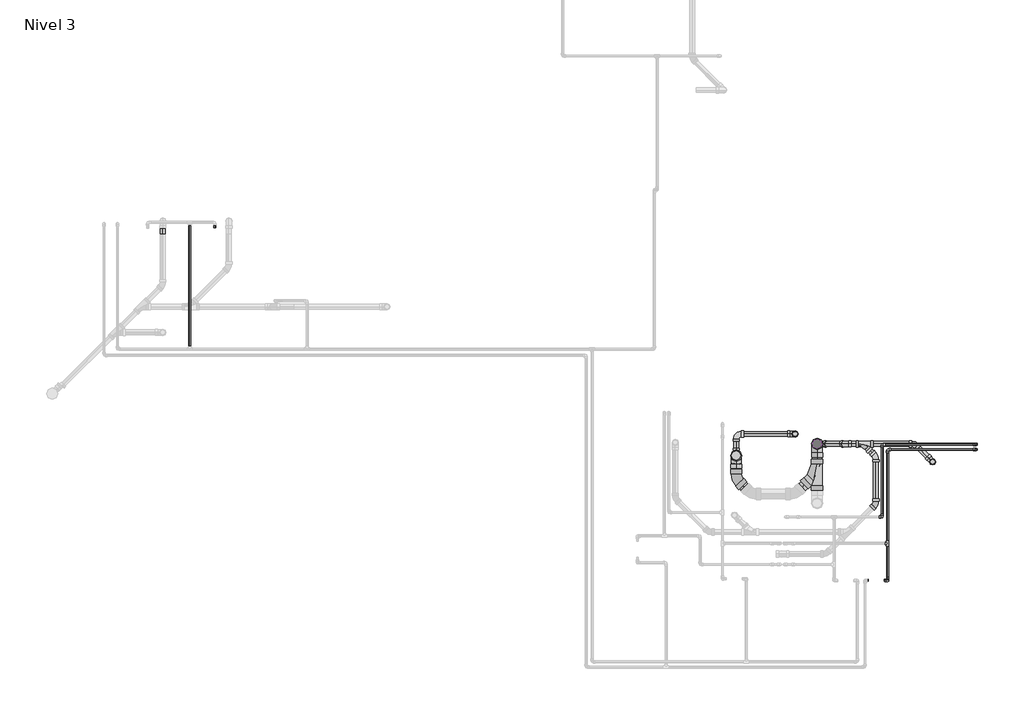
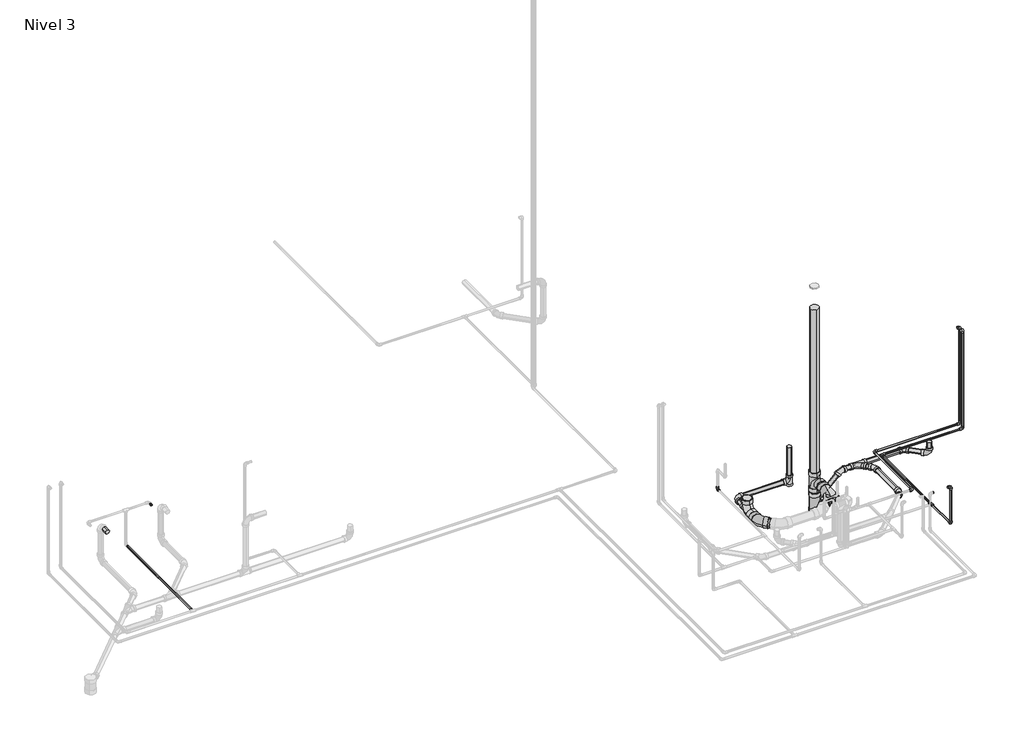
# One storey, part 4 of 9: 31 pipe segments, 24 pipe fittings.
"""IFC4 building model written with IfcOpenShell, lengths in millimetres."""

from ifc_helpers import new_model, si_unit, point, frame, frame_2d, origin, place, context, project, spatial, circle_curve, trimmed, segment, composite_curve, outline, extrude, transform, mapped, element, save
from components import pipe_fitting_ab418b84, pipe_fitting_0163322b, pipe_fitting_2a8dfbef, pipe_fitting_44a425ca, pipe_fitting_6ef1482d, pipe_fitting_ef5974f2, pipe_fitting_528008cb, m_codo_pvc_serie_40_9ad74631, m_codo_pvc_serie_40_dwv1_5c0ec739, m_codo_pvc_serie_40_dwv1_9a7ca077, m_codo_pvc_serie_40_dwv1_6f1a2495

model = new_model("IFC4")

# Units and contexts
model_context = context("Model", 3, world=origin())
ifc_project = project(units=[si_unit("LENGTHUNIT", "METRE", prefix="MILLI")], contexts=[model_context])

# Site, building, storey
site = spatial("IfcSite", under=ifc_project)
building = spatial("IfcBuilding", under=site)
storey = spatial("IfcBuildingStorey", under=building, Name="Nivel 3", Elevation=5450.0)

# Pipe fittings
placement = place(None, origin())
pipe_fitting_shape = pipe_fitting_ab418b84(model_context)
element("IfcPipeFitting", 1, ObjectType="M_Te - PVC - Serie 40 : Estándar", at=placement, inside=storey, context=model_context, shape_type="MappedRepresentation", body=[
    mapped(pipe_fitting_shape, transform((8223.2736664, 5443.3784167, 5370.0), x_axis=(0.0, -1.0, 0.0), y_axis=(1.0, 0.0, 0.0), z_axis=(0.0, 0.0, 1.0))),
])
pipe_fitting_2_shape = pipe_fitting_0163322b(model_context)
element("IfcPipeFitting", 2, ObjectType="M_Sanitario con te de reducción - PVC - Serie 40 - DWV : Estándar", at=placement, inside=storey, context=model_context, shape_type="MappedRepresentation", body=[
    mapped(pipe_fitting_2_shape, transform((7950.1491284, 6556.6039726, 5300.0), x_axis=(1.0, 0.0, 0.0), y_axis=(0.0, 1.0, 0.0), z_axis=(0.0, 0.0, 1.0))),
])
pipe_fitting_3_shape = pipe_fitting_2a8dfbef(model_context)
element("IfcPipeFitting", 3, ObjectType="M_Sanitario con te de reducción - PVC - Serie 40 - DWV : Estándar", at=placement, inside=storey, context=model_context, shape_type="MappedRepresentation", body=[
    mapped(pipe_fitting_3_shape, transform((7432.3114332, 6556.6039726, 5300.0), x_axis=(0.0, 0.0, 1.0), y_axis=(0.0, 1.0, 0.0), z_axis=(-1.0, 0.0, 0.0))),
])
pipe_fitting_4_shape = pipe_fitting_44a425ca(model_context)
element("IfcPipeFitting", 4, ObjectType="M_Sanitario con te de reducción - PVC - Serie 40 - DWV : Estándar", at=placement, inside=storey, context=model_context, shape_type="MappedRepresentation", body=[
    mapped(pipe_fitting_4_shape, transform((6526.9673956, 6425.7039726, 5300.0), x_axis=(0.0, 1.0, 0.0), y_axis=(0.0, 0.0, -1.0), z_axis=(-1.0, 0.0, 0.0))),
])
pipe_fitting_5_shape = pipe_fitting_6ef1482d(model_context)
element("IfcPipeFitting", 5, ObjectType="M_Sanitario con te de reducción - PVC - Serie 40 - DWV : Estándar", at=placement, inside=storey, context=model_context, shape_type="MappedRepresentation", body=[
    mapped(pipe_fitting_5_shape, transform((7186.9673956, 6667.6335141, 5300.0), x_axis=(0.0, 0.0, -1.0), y_axis=(1.0, 0.0, 0.0), z_axis=(0.0, -1.0, 0.0))),
])
pipe_fitting_6_shape = pipe_fitting_ef5974f2(model_context)
element("IfcPipeFitting", 6, ObjectType="M_Sanitario con te de reducción - PVC - Serie 40 - DWV : Estándar", at=placement, inside=storey, context=model_context, shape_type="MappedRepresentation", body=[
    mapped(pipe_fitting_6_shape, transform((7432.3114332, 6556.6039726, 4980.373341), x_axis=(0.0, 0.0, 1.0), y_axis=(-1.0, 0.0, 0.0), z_axis=(0.0, -1.0, 0.0))),
])
pipe_fitting_7_shape = pipe_fitting_528008cb(model_context)
element("IfcPipeFitting", 7, ObjectType="M_Sanitario con te de reducción - PVC - Serie 40 - DWV : Estándar", at=placement, inside=storey, context=model_context, shape_type="MappedRepresentation", body=[
    mapped(pipe_fitting_7_shape, transform((7432.3176766, 6240.3688287, 5300.0), x_axis=(0.0, -1.0, 0.0), y_axis=(1.0, 0.0, 0.0), z_axis=(0.0, 0.0, 1.0))),
])
m_codo_pvc_serie_40_shape = m_codo_pvc_serie_40_9ad74631(model_context)
element("IfcPipeFitting", 8, ObjectType="M_Codo - PVC - Serie 40 : Estándar", at=placement, inside=storey, context=model_context, shape_type="MappedRepresentation", body=[
    mapped(m_codo_pvc_serie_40_shape, transform((6373.4849581, 6783.6807861, 5400.0), x_axis=(0.0, 0.0, -1.0), y_axis=(0.0, -1.0, 0.0), z_axis=(-1.0, 0.0, 0.0))),
])
element("IfcPipeFitting", 9, ObjectType="M_Codo - PVC - Serie 40 : Estándar", at=placement, inside=storey, context=model_context, shape_type="MappedRepresentation", body=[
    mapped(m_codo_pvc_serie_40_shape, transform((8160.7224481, 6550.9011374, 5400.0), x_axis=(-1.0, 0.0, 0.0), y_axis=(0.0, -1.0, 0.0), z_axis=(0.0, 0.0, 1.0))),
])
element("IfcPipeFitting", 10, ObjectType="M_Codo - PVC - Serie 40 : Estándar", at=placement, inside=storey, context=model_context, shape_type="MappedRepresentation", body=[
    mapped(m_codo_pvc_serie_40_shape, transform((9213.5474126, 6550.9011374, 5400.0), x_axis=(1.0, 0.0, 0.0), y_axis=(0.0, 0.0, 1.0), z_axis=(0.0, -1.0, 0.0))),
])
element("IfcPipeFitting", 11, ObjectType="M_Codo - PVC - Serie 40 : Estándar", at=placement, inside=storey, context=model_context, shape_type="MappedRepresentation", body=[
    mapped(m_codo_pvc_serie_40_shape, transform((9213.5474126, 6550.9011374, 6650.0), x_axis=(0.0, 0.0, 1.0), y_axis=(-1.0, 0.0, 0.0), z_axis=(0.0, -1.0, 0.0))),
])
element("IfcPipeFitting", 12, ObjectType="M_Codo - PVC - Serie 40 : Estándar", at=placement, inside=storey, context=model_context, shape_type="MappedRepresentation", body=[
    mapped(m_codo_pvc_serie_40_shape, transform((8223.2736664, 5028.5261191, 5850.0), x_axis=(1.0, 0.0, 0.0), y_axis=(0.0, 0.0, -1.0), z_axis=(0.0, 1.0, 0.0))),
])
element("IfcPipeFitting", 13, ObjectType="M_Codo - PVC - Serie 40 : Estándar", at=placement, inside=storey, context=model_context, shape_type="MappedRepresentation", body=[
    mapped(m_codo_pvc_serie_40_shape, transform((8223.2736664, 5028.5261191, 5370.0), x_axis=(0.0, 0.0, -1.0), y_axis=(0.0, 1.0, 0.0), z_axis=(1.0, 0.0, 0.0))),
])
element("IfcPipeFitting", 14, ObjectType="M_Codo - PVC - Serie 40 : Estándar", at=placement, inside=storey, context=model_context, shape_type="MappedRepresentation", body=[
    mapped(m_codo_pvc_serie_40_shape, transform((8160.7224481, 5738.1215351, 5400.0), x_axis=(1.0, 0.0, 0.0), y_axis=(0.0, 1.0, 0.0), z_axis=(0.0, 0.0, 1.0))),
])
element("IfcPipeFitting", 15, ObjectType="M_Codo - PVC - Serie 40 : Estándar", at=placement, inside=storey, context=model_context, shape_type="MappedRepresentation", body=[
    mapped(m_codo_pvc_serie_40_shape, transform((8223.2736664, 6493.5261191, 5370.0), x_axis=(-1.0, 0.0, 0.0), y_axis=(0.0, -1.0, 0.0), z_axis=(0.0, 0.0, 1.0))),
])
element("IfcPipeFitting", 16, ObjectType="M_Codo - PVC - Serie 40 : Estándar", at=placement, inside=storey, context=model_context, shape_type="MappedRepresentation", body=[
    mapped(m_codo_pvc_serie_40_shape, transform((9213.2736664, 6493.5261191, 5370.0), x_axis=(1.0, 0.0, 0.0), y_axis=(0.0, 0.0, 1.0), z_axis=(0.0, -1.0, 0.0))),
])
element("IfcPipeFitting", 17, ObjectType="M_Codo - PVC - Serie 40 : Estándar", at=placement, inside=storey, context=model_context, shape_type="MappedRepresentation", body=[
    mapped(m_codo_pvc_serie_40_shape, transform((9213.2736664, 6493.5261191, 6650.0), x_axis=(0.0, 0.0, 1.0), y_axis=(-1.0, 0.0, 0.0), z_axis=(0.0, -1.0, 0.0))),
])
m_codo_pvc_serie_40_dwv1_shape = m_codo_pvc_serie_40_dwv1_5c0ec739(model_context)
element("IfcPipeFitting", 18, ObjectType="M_Codo - PVC - Serie 40 - DWV1 : Estándar 2", at=placement, inside=storey, context=model_context, shape_type="MappedRepresentation", body=[
    mapped(m_codo_pvc_serie_40_dwv1_shape, transform((8726.4610283, 6356.2295424, 5300.0041623), x_axis=(0.0, 0.0, -1.0), y_axis=(-0.7071067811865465, 0.7071067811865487, 0.0), z_axis=(0.7071067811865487, 0.7071067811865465, 0.0))),
])
element("IfcPipeFitting", 19, ObjectType="M_Codo - PVC - Serie 40 - DWV1 : Estándar 2", at=placement, inside=storey, context=model_context, shape_type="MappedRepresentation", body=[
    mapped(m_codo_pvc_serie_40_dwv1_shape, transform((6526.9673956, 6667.6335141, 5300.0), x_axis=(-1.0, 0.0, 0.0), y_axis=(0.0, -1.0, 0.0), z_axis=(0.0, 0.0, 1.0))),
])
m_codo_pvc_serie_40_dwv1_2_shape = m_codo_pvc_serie_40_dwv1_9a7ca077(model_context)
element("IfcPipeFitting", 20, ObjectType="M_Codo - PVC - Serie 40 - DWV1 : Estándar 2", at=placement, inside=storey, context=model_context, shape_type="MappedRepresentation", body=[
    mapped(m_codo_pvc_serie_40_dwv1_2_shape, transform((6526.9673956, 6165.7039726, 5300.0), x_axis=(0.0, -1.0, 0.0), y_axis=(1.0, 0.0, 0.0), z_axis=(0.0, 0.0, 1.0))),
])
m_codo_pvc_serie_40_dwv1_3_shape = m_codo_pvc_serie_40_dwv1_6f1a2495(model_context)
element("IfcPipeFitting", 21, ObjectType="M_Codo - PVC - Serie 40 - DWV1 : Estándar 2", at=placement, inside=storey, context=model_context, shape_type="MappedRepresentation", body=[
    mapped(m_codo_pvc_serie_40_dwv1_3_shape, transform((8090.9591157, 5880.4374664, 5300.0), x_axis=(0.7071067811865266, 0.7071067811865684, 0.0), y_axis=(-0.7071067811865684, 0.7071067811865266, 0.0), z_axis=(0.0, 0.0, 1.0))),
])
element("IfcPipeFitting", 22, ObjectType="M_Codo - PVC - Serie 40 - DWV1 : Estándar 2", at=placement, inside=storey, context=model_context, shape_type="MappedRepresentation", body=[
    mapped(m_codo_pvc_serie_40_dwv1_3_shape, transform((8526.0865981, 6556.6039726, 5300.0), x_axis=(-0.7071067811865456, 0.7071067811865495, 0.0), y_axis=(-0.7071067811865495, -0.7071067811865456, 0.0), z_axis=(0.0, 0.0, 1.0))),
])
element("IfcPipeFitting", 23, ObjectType="M_Codo - PVC - Serie 40 - DWV1 : Estándar 2", at=placement, inside=storey, context=model_context, shape_type="MappedRepresentation", body=[
    mapped(m_codo_pvc_serie_40_dwv1_3_shape, transform((8090.9591157, 6415.7939854, 5300.0), x_axis=(0.0, 1.0, 0.0), y_axis=(-1.0, 0.0, 0.0), z_axis=(0.0, 0.0, 1.0))),
])
element("IfcPipeFitting", 24, ObjectType="M_Codo - PVC - Serie 40 - DWV1 : Estándar 2", at=placement, inside=storey, context=model_context, shape_type="MappedRepresentation", body=[
    mapped(m_codo_pvc_serie_40_dwv1_3_shape, transform((7751.9380923, 6556.6039726, 5300.0), x_axis=(-1.0, 0.0, 0.0), y_axis=(0.0, 0.0, -1.0), z_axis=(0.0, -1.0, 0.0))),
])

# Pipe segments
element("IfcPipeSegment", 25, ObjectType="Tuberia PVC Agua Fria", at=placement, inside=storey, context=model_context, shape_type="SweptSolid", body=[
    extrude(outline(composite_curve([segment(trimmed(circle_curve(frame_2d((5400.0, 411.6630441)), 10.31875), [point((5400.0, 421.9817941))], [point((5410.31875, 411.6630441))], False, "CARTESIAN"), True, "CONTINUOUS"), segment(trimmed(circle_curve(frame_2d((5400.0, 411.6630441)), 10.31875), [point((5410.31875, 411.6630441))], [point((5400.0, 401.3442941))], False, "CARTESIAN"), True, "CONTINUOUS"), segment(trimmed(circle_curve(frame_2d((5400.0, 411.6630441)), 10.31875), [point((5400.0, 401.3442941))], [point((5389.68125, 411.6630441))], False, "CARTESIAN"), True, "CONTINUOUS"), segment(trimmed(circle_curve(frame_2d((5400.0, 411.6630441)), 10.31875), [point((5389.68125, 411.6630441))], [point((5400.0, 421.9817941))], False, "CARTESIAN"), True, "CONTINUOUS")], self_intersect=False)), frame((0.0, 7647.4782956, 0.0), z_axis=(0.0, 1.0, 0.0), x_axis=(0.0, 0.0, 1.0)), (0.0, 0.0, 1.0), 1356.1388437),
])
element("IfcPipeSegment", 26, ObjectType="Tuberia PVC Agua Fria", at=placement, inside=storey, context=model_context, shape_type="SweptSolid", body=[
    extrude(outline(composite_curve([segment(trimmed(circle_curve(frame_2d((5850.0, 691.6630441)), 10.31875), [point((5850.0, 681.3442941))], [point((5839.68125, 691.6630441))], False, "CARTESIAN"), True, "CONTINUOUS"), segment(trimmed(circle_curve(frame_2d((5850.0, 691.6630441)), 10.31875), [point((5839.68125, 691.6630441))], [point((5850.0, 701.9817941))], False, "CARTESIAN"), True, "CONTINUOUS"), segment(trimmed(circle_curve(frame_2d((5850.0, 691.6630441)), 10.31875), [point((5850.0, 701.9817941))], [point((5860.31875, 691.6630441))], False, "CARTESIAN"), True, "CONTINUOUS"), segment(trimmed(circle_curve(frame_2d((5850.0, 691.6630441)), 10.31875), [point((5860.31875, 691.6630441))], [point((5850.0, 681.3442941))], False, "CARTESIAN"), True, "CONTINUOUS")], self_intersect=False)), frame((0.0, 8977.0181394, 0.0), z_axis=(0.0, 1.0, 0.0), x_axis=(0.0, 0.0, 1.0)), (0.0, 0.0, 1.0), 26.599),
])
element("IfcPipeSegment", 27, ObjectType="Tuberia PVC Agua Fria", at=placement, inside=storey, context=model_context, shape_type="SweptSolid", body=[
    extrude(outline(composite_curve([segment(trimmed(circle_curve(frame_2d((5400.0, 8160.7224481)), 10.31875), [point((5400.0, 8171.0411981))], [point((5410.31875, 8160.7224481))], False, "CARTESIAN"), True, "CONTINUOUS"), segment(trimmed(circle_curve(frame_2d((5400.0, 8160.7224481)), 10.31875), [point((5410.31875, 8160.7224481))], [point((5400.0, 8150.4036981))], False, "CARTESIAN"), True, "CONTINUOUS"), segment(trimmed(circle_curve(frame_2d((5400.0, 8160.7224481)), 10.31875), [point((5400.0, 8150.4036981))], [point((5389.68125, 8160.7224481))], False, "CARTESIAN"), True, "CONTINUOUS"), segment(trimmed(circle_curve(frame_2d((5400.0, 8160.7224481)), 10.31875), [point((5389.68125, 8160.7224481))], [point((5400.0, 8171.0411981))], False, "CARTESIAN"), True, "CONTINUOUS")], self_intersect=False)), frame((0.0, 5771.5225351, 0.0), z_axis=(0.0, 1.0, 0.0), x_axis=(0.0, 0.0, 1.0)), (0.0, 0.0, 1.0), 745.9776022),
])
element("IfcPipeSegment", 28, ObjectType="Tuberia PVC Agua Fria", at=placement, inside=storey, context=model_context, shape_type="SweptSolid", body=[
    extrude(outline(composite_curve([segment(trimmed(circle_curve(frame_2d((6550.9011374, 5400.0)), 10.31875), [point((6540.5823874, 5400.0))], [point((6550.9011374, 5410.31875))], False, "CARTESIAN"), True, "CONTINUOUS"), segment(trimmed(circle_curve(frame_2d((6550.9011374, 5400.0)), 10.31875), [point((6550.9011374, 5410.31875))], [point((6561.2198874, 5400.0))], False, "CARTESIAN"), True, "CONTINUOUS"), segment(trimmed(circle_curve(frame_2d((6550.9011374, 5400.0)), 10.31875), [point((6561.2198874, 5400.0))], [point((6550.9011374, 5389.68125))], False, "CARTESIAN"), True, "CONTINUOUS"), segment(trimmed(circle_curve(frame_2d((6550.9011374, 5400.0)), 10.31875), [point((6550.9011374, 5389.68125))], [point((6540.5823874, 5400.0))], False, "CARTESIAN"), True, "CONTINUOUS")], self_intersect=False)), frame((8194.1234481, 0.0, 0.0), z_axis=(1.0, 0.0, 0.0), x_axis=(0.0, 1.0, 0.0)), (0.0, 0.0, 1.0), 986.0229645),
])
element("IfcPipeSegment", 29, ObjectType="Tuberia PVC Agua Fria", at=placement, inside=storey, context=model_context, shape_type="SweptSolid", body=[
    extrude(outline(composite_curve([segment(trimmed(circle_curve(frame_2d((9213.5474126, 6550.9011374)), 10.31875), [point((9203.2286626, 6550.9011374))], [point((9213.5474126, 6561.2198874))], False, "CARTESIAN"), True, "CONTINUOUS"), segment(trimmed(circle_curve(frame_2d((9213.5474126, 6550.9011374)), 10.31875), [point((9213.5474126, 6561.2198874))], [point((9223.8661626, 6550.9011374))], False, "CARTESIAN"), True, "CONTINUOUS"), segment(trimmed(circle_curve(frame_2d((9213.5474126, 6550.9011374)), 10.31875), [point((9223.8661626, 6550.9011374))], [point((9213.5474126, 6540.5823874))], False, "CARTESIAN"), True, "CONTINUOUS"), segment(trimmed(circle_curve(frame_2d((9213.5474126, 6550.9011374)), 10.31875), [point((9213.5474126, 6540.5823874))], [point((9203.2286626, 6550.9011374))], False, "CARTESIAN"), True, "CONTINUOUS")], self_intersect=False)), frame((0.0, 0.0, 5433.401), z_axis=(0.0, 0.0, 1.0), x_axis=(1.0, 0.0, 0.0)), (0.0, 0.0, 1.0), 1183.198),
])
element("IfcPipeSegment", 30, ObjectType="Tuberia PVC VENTILACION", at=placement, inside=storey, context=model_context, shape_type="SweptSolid", body=[
    extrude(outline(composite_curve([segment(trimmed(circle_curve(frame_2d((5300.0, 6526.9673956)), 26.9875), [point((5300.0, 6553.9548956))], [point((5326.9875, 6526.9673956))], False, "CARTESIAN"), True, "CONTINUOUS"), segment(trimmed(circle_curve(frame_2d((5300.0, 6526.9673956)), 26.9875), [point((5326.9875, 6526.9673956))], [point((5300.0, 6499.9798956))], False, "CARTESIAN"), True, "CONTINUOUS"), segment(trimmed(circle_curve(frame_2d((5300.0, 6526.9673956)), 26.9875), [point((5300.0, 6499.9798956))], [point((5273.0125, 6526.9673956))], False, "CARTESIAN"), True, "CONTINUOUS"), segment(trimmed(circle_curve(frame_2d((5300.0, 6526.9673956)), 26.9875), [point((5273.0125, 6526.9673956))], [point((5300.0, 6553.9548956))], False, "CARTESIAN"), True, "CONTINUOUS")], self_intersect=False)), frame((0.0, 6507.6335141, 0.0), z_axis=(0.0, 1.0, 0.0), x_axis=(0.0, 0.0, 1.0)), (0.0, 0.0, 1.0), 77.4579375),
])
element("IfcPipeSegment", 31, ObjectType="Tuberia PVC VENTILACION", at=placement, inside=storey, context=model_context, shape_type="SweptSolid", body=[
    extrude(outline(composite_curve([segment(trimmed(circle_curve(frame_2d((6667.6335141, 5300.0)), 26.9875), [point((6640.6460141, 5300.0))], [point((6667.6335141, 5326.9875))], False, "CARTESIAN"), True, "CONTINUOUS"), segment(trimmed(circle_curve(frame_2d((6667.6335141, 5300.0)), 26.9875), [point((6667.6335141, 5326.9875))], [point((6694.6210141, 5300.0))], False, "CARTESIAN"), True, "CONTINUOUS"), segment(trimmed(circle_curve(frame_2d((6667.6335141, 5300.0)), 26.9875), [point((6694.6210141, 5300.0))], [point((6667.6335141, 5273.0125))], False, "CARTESIAN"), True, "CONTINUOUS"), segment(trimmed(circle_curve(frame_2d((6667.6335141, 5300.0)), 26.9875), [point((6667.6335141, 5273.0125))], [point((6640.6460141, 5300.0))], False, "CARTESIAN"), True, "CONTINUOUS")], self_intersect=False)), frame((6609.5094581, 0.0, 0.0), z_axis=(1.0, 0.0, 0.0), x_axis=(0.0, 1.0, 0.0)), (0.0, 0.0, 1.0), 495.6659688),
])
element("IfcPipeSegment", 32, ObjectType="Tuberia PVC VENTILACION", at=placement, inside=storey, context=model_context, shape_type="SweptSolid", body=[
    extrude(outline(composite_curve([segment(trimmed(circle_curve(frame_2d((7186.9673956, 6667.6335141)), 26.9875), [point((7159.9798956, 6667.6335141))], [point((7186.9673956, 6694.6210141))], False, "CARTESIAN"), True, "CONTINUOUS"), segment(trimmed(circle_curve(frame_2d((7186.9673956, 6667.6335141)), 26.9875), [point((7186.9673956, 6694.6210141))], [point((7213.9548956, 6667.6335141))], False, "CARTESIAN"), True, "CONTINUOUS"), segment(trimmed(circle_curve(frame_2d((7186.9673956, 6667.6335141)), 26.9875), [point((7213.9548956, 6667.6335141))], [point((7186.9673956, 6640.6460141))], False, "CARTESIAN"), True, "CONTINUOUS"), segment(trimmed(circle_curve(frame_2d((7186.9673956, 6667.6335141)), 26.9875), [point((7186.9673956, 6640.6460141))], [point((7159.9798956, 6667.6335141))], False, "CARTESIAN"), True, "CONTINUOUS")], self_intersect=False)), frame((0.0, 0.0, 5379.9344667), z_axis=(0.0, 0.0, 1.0), x_axis=(1.0, 0.0, 0.0)), (0.0, 0.0, 1.0), 360.0655333),
])
element("IfcPipeSegment", 33, ObjectType="Tuberia PVC Agua Caliente", at=placement, inside=storey, context=model_context, shape_type="SweptSolid", body=[
    extrude(outline(composite_curve([segment(trimmed(circle_curve(frame_2d((5028.5261191, 5850.0)), 10.31875), [point((5018.2073691, 5850.0))], [point((5028.5261191, 5860.31875))], False, "CARTESIAN"), True, "CONTINUOUS"), segment(trimmed(circle_curve(frame_2d((5028.5261191, 5850.0)), 10.31875), [point((5028.5261191, 5860.31875))], [point((5038.8448691, 5850.0))], False, "CARTESIAN"), True, "CONTINUOUS"), segment(trimmed(circle_curve(frame_2d((5028.5261191, 5850.0)), 10.31875), [point((5038.8448691, 5850.0))], [point((5028.5261191, 5839.68125))], False, "CARTESIAN"), True, "CONTINUOUS"), segment(trimmed(circle_curve(frame_2d((5028.5261191, 5850.0)), 10.31875), [point((5028.5261191, 5839.68125))], [point((5018.2073691, 5850.0))], False, "CARTESIAN"), True, "CONTINUOUS")], self_intersect=False)), frame((8184.7736664, 0.0, 0.0), z_axis=(1.0, 0.0, 0.0), x_axis=(0.0, 1.0, 0.0)), (0.0, 0.0, 1.0), 5.099),
])
element("IfcPipeSegment", 34, ObjectType="Tuberia PVC Agua Caliente", at=placement, inside=storey, context=model_context, shape_type="SweptSolid", body=[
    extrude(outline(composite_curve([segment(trimmed(circle_curve(frame_2d((8223.2736664, 5028.5261191)), 10.31875), [point((8233.5924164, 5028.5261191))], [point((8223.2736664, 5018.2073691))], False, "CARTESIAN"), True, "CONTINUOUS"), segment(trimmed(circle_curve(frame_2d((8223.2736664, 5028.5261191)), 10.31875), [point((8223.2736664, 5018.2073691))], [point((8212.9549164, 5028.5261191))], False, "CARTESIAN"), True, "CONTINUOUS"), segment(trimmed(circle_curve(frame_2d((8223.2736664, 5028.5261191)), 10.31875), [point((8212.9549164, 5028.5261191))], [point((8223.2736664, 5038.8448691))], False, "CARTESIAN"), True, "CONTINUOUS"), segment(trimmed(circle_curve(frame_2d((8223.2736664, 5028.5261191)), 10.31875), [point((8223.2736664, 5038.8448691))], [point((8233.5924164, 5028.5261191))], False, "CARTESIAN"), True, "CONTINUOUS")], self_intersect=False)), frame((0.0, 0.0, 5403.401), z_axis=(0.0, 0.0, 1.0), x_axis=(1.0, 0.0, 0.0)), (0.0, 0.0, 1.0), 413.198),
])
element("IfcPipeSegment", 35, ObjectType="Tuberia PVC Agua Caliente", at=placement, inside=storey, context=model_context, shape_type="SweptSolid", body=[
    extrude(outline(composite_curve([segment(trimmed(circle_curve(frame_2d((6493.5261191, 5370.0)), 10.31875), [point((6483.2073691, 5370.0))], [point((6493.5261191, 5380.31875))], False, "CARTESIAN"), True, "CONTINUOUS"), segment(trimmed(circle_curve(frame_2d((6493.5261191, 5370.0)), 10.31875), [point((6493.5261191, 5380.31875))], [point((6503.8448691, 5370.0))], False, "CARTESIAN"), True, "CONTINUOUS"), segment(trimmed(circle_curve(frame_2d((6493.5261191, 5370.0)), 10.31875), [point((6503.8448691, 5370.0))], [point((6493.5261191, 5359.68125))], False, "CARTESIAN"), True, "CONTINUOUS"), segment(trimmed(circle_curve(frame_2d((6493.5261191, 5370.0)), 10.31875), [point((6493.5261191, 5359.68125))], [point((6483.2073691, 5370.0))], False, "CARTESIAN"), True, "CONTINUOUS")], self_intersect=False)), frame((8256.6746664, 0.0, 0.0), z_axis=(1.0, 0.0, 0.0), x_axis=(0.0, 1.0, 0.0)), (0.0, 0.0, 1.0), 923.198),
])
element("IfcPipeSegment", 36, ObjectType="Tuberia PVC Agua Caliente", at=placement, inside=storey, context=model_context, shape_type="SweptSolid", body=[
    extrude(outline(composite_curve([segment(trimmed(circle_curve(frame_2d((9213.2736664, 6493.5261191)), 10.31875), [point((9202.9549164, 6493.5261191))], [point((9213.2736664, 6503.8448691))], False, "CARTESIAN"), True, "CONTINUOUS"), segment(trimmed(circle_curve(frame_2d((9213.2736664, 6493.5261191)), 10.31875), [point((9213.2736664, 6503.8448691))], [point((9223.5924164, 6493.5261191))], False, "CARTESIAN"), True, "CONTINUOUS"), segment(trimmed(circle_curve(frame_2d((9213.2736664, 6493.5261191)), 10.31875), [point((9223.5924164, 6493.5261191))], [point((9213.2736664, 6483.2073691))], False, "CARTESIAN"), True, "CONTINUOUS"), segment(trimmed(circle_curve(frame_2d((9213.2736664, 6493.5261191)), 10.31875), [point((9213.2736664, 6483.2073691))], [point((9202.9549164, 6493.5261191))], False, "CARTESIAN"), True, "CONTINUOUS")], self_intersect=False)), frame((0.0, 0.0, 5403.401), z_axis=(0.0, 0.0, 1.0), x_axis=(1.0, 0.0, 0.0)), (0.0, 0.0, 1.0), 1213.198),
])
element("IfcPipeSegment", 37, ObjectType="Tuberia PVC Agua Caliente", at=placement, inside=storey, context=model_context, shape_type="SweptSolid", body=[
    extrude(outline(composite_curve([segment(trimmed(circle_curve(frame_2d((5370.0, 8223.2736664)), 10.31875), [point((5370.0, 8233.5924164))], [point((5380.31875, 8223.2736664))], False, "CARTESIAN"), True, "CONTINUOUS"), segment(trimmed(circle_curve(frame_2d((5370.0, 8223.2736664)), 10.31875), [point((5380.31875, 8223.2736664))], [point((5370.0, 8212.9549164))], False, "CARTESIAN"), True, "CONTINUOUS"), segment(trimmed(circle_curve(frame_2d((5370.0, 8223.2736664)), 10.31875), [point((5370.0, 8212.9549164))], [point((5359.68125, 8223.2736664))], False, "CARTESIAN"), True, "CONTINUOUS"), segment(trimmed(circle_curve(frame_2d((5370.0, 8223.2736664)), 10.31875), [point((5359.68125, 8223.2736664))], [point((5370.0, 8233.5924164))], False, "CARTESIAN"), True, "CONTINUOUS")], self_intersect=False)), frame((0.0, 5473.8385729, 0.0), z_axis=(0.0, 1.0, 0.0), x_axis=(0.0, 0.0, 1.0)), (0.0, 0.0, 1.0), 986.2865461),
])
element("IfcPipeSegment", 38, ObjectType="Tuberia PVC Agua Caliente", at=placement, inside=storey, context=model_context, shape_type="SweptSolid", body=[
    extrude(outline(composite_curve([segment(trimmed(circle_curve(frame_2d((5370.0, 8223.2736664)), 10.31875), [point((5370.0, 8233.5924164))], [point((5380.31875, 8223.2736664))], False, "CARTESIAN"), True, "CONTINUOUS"), segment(trimmed(circle_curve(frame_2d((5370.0, 8223.2736664)), 10.31875), [point((5380.31875, 8223.2736664))], [point((5370.0, 8212.9549164))], False, "CARTESIAN"), True, "CONTINUOUS"), segment(trimmed(circle_curve(frame_2d((5370.0, 8223.2736664)), 10.31875), [point((5370.0, 8212.9549164))], [point((5359.68125, 8223.2736664))], False, "CARTESIAN"), True, "CONTINUOUS"), segment(trimmed(circle_curve(frame_2d((5370.0, 8223.2736664)), 10.31875), [point((5359.68125, 8223.2736664))], [point((5370.0, 8233.5924164))], False, "CARTESIAN"), True, "CONTINUOUS")], self_intersect=False)), frame((0.0, 5061.9271191, 0.0), z_axis=(0.0, 1.0, 0.0), x_axis=(0.0, 0.0, 1.0)), (0.0, 0.0, 1.0), 350.9911414),
])
element("IfcPipeSegment", 39, ObjectType="Tuberia PVC Agua Caliente", at=placement, inside=storey, context=model_context, shape_type="SweptSolid", body=[
    extrude(outline(composite_curve([segment(trimmed(circle_curve(frame_2d((5028.5261191, 5850.0)), 10.31875), [point((5018.2073691, 5850.0))], [point((5028.5261191, 5860.31875))], False, "CARTESIAN"), True, "CONTINUOUS"), segment(trimmed(circle_curve(frame_2d((5028.5261191, 5850.0)), 10.31875), [point((5028.5261191, 5860.31875))], [point((5038.8448691, 5850.0))], False, "CARTESIAN"), True, "CONTINUOUS"), segment(trimmed(circle_curve(frame_2d((5028.5261191, 5850.0)), 10.31875), [point((5038.8448691, 5850.0))], [point((5028.5261191, 5839.68125))], False, "CARTESIAN"), True, "CONTINUOUS"), segment(trimmed(circle_curve(frame_2d((5028.5261191, 5850.0)), 10.31875), [point((5028.5261191, 5839.68125))], [point((5018.2073691, 5850.0))], False, "CARTESIAN"), True, "CONTINUOUS")], self_intersect=False)), frame((8001.6746664, 0.0, 0.0), z_axis=(1.0, 0.0, 0.0), x_axis=(0.0, 1.0, 0.0)), (0.0, 0.0, 1.0), 5.099),
])
element("IfcPipeSegment", 40, ObjectType="Tuberia PVC Sanitario", at=placement, inside=storey, context=model_context, shape_type="SweptSolid", body=[
    extrude(outline(composite_curve([segment(trimmed(circle_curve(frame_2d((5750.0, 109.5958692)), 26.9875), [point((5750.0, 136.5833692))], [point((5776.9875, 109.5958692))], False, "CARTESIAN"), True, "CONTINUOUS"), segment(trimmed(circle_curve(frame_2d((5750.0, 109.5958692)), 26.9875), [point((5776.9875, 109.5958692))], [point((5750.0, 82.6083692))], False, "CARTESIAN"), True, "CONTINUOUS"), segment(trimmed(circle_curve(frame_2d((5750.0, 109.5958692)), 26.9875), [point((5750.0, 82.6083692))], [point((5723.0125, 109.5958692))], False, "CARTESIAN"), True, "CONTINUOUS"), segment(trimmed(circle_curve(frame_2d((5750.0, 109.5958692)), 26.9875), [point((5723.0125, 109.5958692))], [point((5750.0, 136.5833692))], False, "CARTESIAN"), True, "CONTINUOUS")], self_intersect=False)), frame((0.0, 8907.7311146, 0.0), z_axis=(0.0, 1.0, 0.0), x_axis=(0.0, 0.0, 1.0)), (0.0, 0.0, 1.0), 62.4579375),
])
element("IfcPipeSegment", 41, ObjectType="Tuberia PVC Sanitario", at=placement, inside=storey, context=model_context, shape_type="SweptSolid", body=[
    extrude(outline(composite_curve([segment(trimmed(circle_curve(frame_2d((6526.9673956, 6425.7039726)), 52.3875), [point((6579.3548956, 6425.7039726))], [point((6526.9673956, 6373.3164726))], False, "CARTESIAN"), True, "CONTINUOUS"), segment(trimmed(circle_curve(frame_2d((6526.9673956, 6425.7039726)), 52.3875), [point((6526.9673956, 6373.3164726))], [point((6474.5798956, 6425.7039726))], False, "CARTESIAN"), True, "CONTINUOUS"), segment(trimmed(circle_curve(frame_2d((6526.9673956, 6425.7039726)), 52.3875), [point((6474.5798956, 6425.7039726))], [point((6526.9673956, 6478.0914726))], False, "CARTESIAN"), True, "CONTINUOUS"), segment(trimmed(circle_curve(frame_2d((6526.9673956, 6425.7039726)), 52.3875), [point((6526.9673956, 6478.0914726))], [point((6579.3548956, 6425.7039726))], False, "CARTESIAN"), True, "CONTINUOUS")], self_intersect=False)), frame((0.0, 0.0, 5446.8159687), z_axis=(0.0, 0.0, 1.0), x_axis=(1.0, 0.0, 0.0)), (0.0, 0.0, 1.0), 3.1840313),
])
element("IfcPipeSegment", 42, ObjectType="Tuberia PVC Sanitario", at=placement, inside=storey, context=model_context, shape_type="SweptSolid", body=[
    extrude(outline(composite_curve([segment(trimmed(circle_curve(frame_2d((0.0, 52.3875)), 52.3875), [point((0.0, 104.7749999))], [point((52.3875, 52.3875))], False, "CARTESIAN"), True, "CONTINUOUS"), segment(trimmed(circle_curve(frame_2d((0.0, 52.3875)), 52.3875), [point((52.3875, 52.3875))], [point((0.0, 0.0))], False, "CARTESIAN"), True, "CONTINUOUS"), segment(trimmed(circle_curve(frame_2d((0.0, 52.3875)), 52.3875), [point((0.0, 0.0))], [point((-52.3875, 52.3875))], False, "CARTESIAN"), True, "CONTINUOUS"), segment(trimmed(circle_curve(frame_2d((0.0, 52.3875)), 52.3875), [point((-52.3875, 52.3875))], [point((0.0, 104.7749999))], False, "CARTESIAN"), True, "CONTINUOUS")], self_intersect=False)), frame((7379.9301782, 6384.2507292, 5300.0), z_axis=(-0.0002446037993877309, 0.9999999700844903, 0.0), x_axis=(0.0, 0.0, 1.0)), (0.0, 0.0, 1.0), 25.5244612),
])
element("IfcPipeSegment", 43, ObjectType="Tuberia PVC Sanitario", at=placement, inside=storey, context=model_context, shape_type="SweptSolid", body=[
    extrude(outline(composite_curve([segment(trimmed(circle_curve(frame_2d((0.0, -52.3875)), 52.3875), [point((-52.3875, -52.3875))], [point((0.0, 0.0))], False, "CARTESIAN"), True, "CONTINUOUS"), segment(trimmed(circle_curve(frame_2d((0.0, -52.3875)), 52.3875), [point((0.0, 0.0))], [point((52.3875, -52.3875))], False, "CARTESIAN"), True, "CONTINUOUS"), segment(trimmed(circle_curve(frame_2d((0.0, -52.3875)), 52.3875), [point((52.3875, -52.3875))], [point((0.0, -104.775))], False, "CARTESIAN"), True, "CONTINUOUS"), segment(trimmed(circle_curve(frame_2d((0.0, -52.3875)), 52.3875), [point((0.0, -104.775))], [point((-52.3875, -52.3875))], False, "CARTESIAN"), True, "CONTINUOUS")], self_intersect=False)), frame((7263.870903, 6071.9220551, 5247.6125), z_axis=(0.7071067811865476, 0.7071067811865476, 0.0), x_axis=(0.7071067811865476, -0.7071067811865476, 0.0)), (0.0, 0.0, 1.0), 37.2473985),
])
element("IfcPipeSegment", 44, ObjectType="Tuberia PVC Sanitario", at=placement, inside=storey, context=model_context, shape_type="SweptSolid", body=[
    extrude(outline(composite_curve([segment(trimmed(circle_curve(frame_2d((0.0, 52.3875)), 52.3875), [point((0.0, 104.775))], [point((52.3875, 52.3875))], False, "CARTESIAN"), True, "CONTINUOUS"), segment(trimmed(circle_curve(frame_2d((0.0, 52.3875)), 52.3875), [point((52.3875, 52.3875))], [point((0.0, 0.0))], False, "CARTESIAN"), True, "CONTINUOUS"), segment(trimmed(circle_curve(frame_2d((0.0, 52.3875)), 52.3875), [point((0.0, 0.0))], [point((-52.3875, 52.3875))], False, "CARTESIAN"), True, "CONTINUOUS"), segment(trimmed(circle_curve(frame_2d((0.0, 52.3875)), 52.3875), [point((-52.3875, 52.3875))], [point((0.0, 104.775))], False, "CARTESIAN"), True, "CONTINUOUS")], self_intersect=False)), frame((7379.9301766, 6033.0740351, 5300.0), z_axis=(-1.374577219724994e-12, 1.0, 0.0), x_axis=(0.0, 0.0, 1.0)), (0.0, 0.0, 1.0), 6.3224804),
])
element("IfcPipeSegment", 45, ObjectType="Tuberia PVC Sanitario", at=placement, inside=storey, context=model_context, shape_type="SweptSolid", body=[
    extrude(outline(composite_curve([segment(trimmed(circle_curve(frame_2d((5300.0, 6526.9673956)), 52.3875), [point((5300.0, 6474.5798956))], [point((5247.6125, 6526.9673956))], False, "CARTESIAN"), True, "CONTINUOUS"), segment(trimmed(circle_curve(frame_2d((5300.0, 6526.9673956)), 52.3875), [point((5247.6125, 6526.9673956))], [point((5300.0, 6579.3548956))], False, "CARTESIAN"), True, "CONTINUOUS"), segment(trimmed(circle_curve(frame_2d((5300.0, 6526.9673956)), 52.3875), [point((5300.0, 6579.3548956))], [point((5352.3875, 6526.9673956))], False, "CARTESIAN"), True, "CONTINUOUS"), segment(trimmed(circle_curve(frame_2d((5300.0, 6526.9673956)), 52.3875), [point((5352.3875, 6526.9673956))], [point((5300.0, 6474.5798956))], False, "CARTESIAN"), True, "CONTINUOUS")], self_intersect=False)), frame((0.0, 6272.8681601, 0.0), z_axis=(0.0, 1.0, 0.0), x_axis=(0.0, 0.0, 1.0)), (0.0, 0.0, 1.0), 8.9410978),
])
element("IfcPipeSegment", 46, ObjectType="Tuberia PVC Sanitario", at=placement, inside=storey, context=model_context, shape_type="SweptSolid", body=[
    extrude(outline(composite_curve([segment(trimmed(circle_curve(frame_2d((0.0, -26.9875)), 26.9875), [point((26.9875001, -26.9867))], [point((0.0008001, -53.975))], False, "CARTESIAN"), True, "CONTINUOUS"), segment(trimmed(circle_curve(frame_2d((0.0, -26.9875)), 26.9875), [point((0.0008001, -53.975))], [point((-26.9875, -26.9883001))], False, "CARTESIAN"), True, "CONTINUOUS"), segment(trimmed(circle_curve(frame_2d((0.0, -26.9875)), 26.9875), [point((-26.9875, -26.9883001))], [point((-0.0008, 0.0))], False, "CARTESIAN"), True, "CONTINUOUS"), segment(trimmed(circle_curve(frame_2d((0.0, -26.9875)), 26.9875), [point((-0.0008, 0.0))], [point((26.9875001, -26.9867))], False, "CARTESIAN"), True, "CONTINUOUS")], self_intersect=False)), frame((8568.8157793, 6513.8759229, 5326.9875), z_axis=(0.7071067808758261, -0.7071067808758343, 2.964526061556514e-05), x_axis=(0.7071067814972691, 0.7071067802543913, -2.964526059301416e-05)), (0.0, 0.0, 1.0), 140.4019868),
])
element("IfcPipeSegment", 47, ObjectType="Tuberia PVC Sanitario", at=placement, inside=storey, context=model_context, shape_type="SweptSolid", body=[
    extrude(outline(composite_curve([segment(trimmed(circle_curve(frame_2d((8726.4610283, 6356.2295424)), 26.9875), [point((8699.4735283, 6356.2295424))], [point((8726.4610283, 6383.2170424))], False, "CARTESIAN"), True, "CONTINUOUS"), segment(trimmed(circle_curve(frame_2d((8726.4610283, 6356.2295424)), 26.9875), [point((8726.4610283, 6383.2170424))], [point((8753.4485283, 6356.2295424))], False, "CARTESIAN"), True, "CONTINUOUS"), segment(trimmed(circle_curve(frame_2d((8726.4610283, 6356.2295424)), 26.9875), [point((8753.4485283, 6356.2295424))], [point((8726.4610283, 6329.2420424))], False, "CARTESIAN"), True, "CONTINUOUS"), segment(trimmed(circle_curve(frame_2d((8726.4610283, 6356.2295424)), 26.9875), [point((8726.4610283, 6329.2420424))], [point((8699.4735283, 6356.2295424))], False, "CARTESIAN"), True, "CONTINUOUS")], self_intersect=False)), frame((0.0, 0.0, 5382.5462248), z_axis=(0.0, 0.0, 1.0), x_axis=(1.0, 0.0, 0.0)), (0.0, 0.0, 1.0), 67.4537752),
])
element("IfcPipeSegment", 48, ObjectType="Tuberia PVC Sanitario", at=placement, inside=storey, context=model_context, shape_type="SweptSolid", body=[
    extrude(outline(composite_curve([segment(trimmed(circle_curve(frame_2d((5300.0, 8090.9591157)), 26.9875), [point((5300.0, 8117.9466157))], [point((5326.9875, 8090.9591157))], False, "CARTESIAN"), True, "CONTINUOUS"), segment(trimmed(circle_curve(frame_2d((5300.0, 8090.9591157)), 26.9875), [point((5326.9875, 8090.9591157))], [point((5300.0, 8063.9716157))], False, "CARTESIAN"), True, "CONTINUOUS"), segment(trimmed(circle_curve(frame_2d((5300.0, 8090.9591157)), 26.9875), [point((5300.0, 8063.9716157))], [point((5273.0125, 8090.9591157))], False, "CARTESIAN"), True, "CONTINUOUS"), segment(trimmed(circle_curve(frame_2d((5300.0, 8090.9591157)), 26.9875), [point((5273.0125, 8090.9591157))], [point((5300.0, 8117.9466157))], False, "CARTESIAN"), True, "CONTINUOUS")], self_intersect=False)), frame((0.0, 5940.8656539, 0.0), z_axis=(0.0, 1.0, 0.0), x_axis=(0.0, 0.0, 1.0)), (0.0, 0.0, 1.0), 414.500144),
])
element("IfcPipeSegment", 49, ObjectType="Tuberia PVC Sanitario", at=placement, inside=storey, context=model_context, shape_type="SweptSolid", body=[
    extrude(outline(composite_curve([segment(trimmed(circle_curve(frame_2d((6556.6039726, 5300.0)), 26.9875), [point((6583.5914726, 5300.0))], [point((6556.6039726, 5273.0125))], False, "CARTESIAN"), True, "CONTINUOUS"), segment(trimmed(circle_curve(frame_2d((6556.6039726, 5300.0)), 26.9875), [point((6556.6039726, 5273.0125))], [point((6529.6164726, 5300.0))], False, "CARTESIAN"), True, "CONTINUOUS"), segment(trimmed(circle_curve(frame_2d((6556.6039726, 5300.0)), 26.9875), [point((6529.6164726, 5300.0))], [point((6556.6039726, 5326.9875))], False, "CARTESIAN"), True, "CONTINUOUS"), segment(trimmed(circle_curve(frame_2d((6556.6039726, 5300.0)), 26.9875), [point((6556.6039726, 5326.9875))], [point((6583.5914726, 5300.0))], False, "CARTESIAN"), True, "CONTINUOUS")], self_intersect=False)), frame((7812.3662798, 0.0, 0.0), z_axis=(1.0, 0.0, 0.0), x_axis=(0.0, 1.0, 0.0)), (0.0, 0.0, 1.0), 57.8483819),
])
element("IfcPipeSegment", 50, ObjectType="Tuberia PVC Sanitario", at=placement, inside=storey, context=model_context, shape_type="SweptSolid", body=[
    extrude(outline(composite_curve([segment(trimmed(circle_curve(frame_2d((0.0, -26.9875)), 26.9875), [point((-26.9875001, -26.9875))], [point((0.0, 0.0))], False, "CARTESIAN"), True, "CONTINUOUS"), segment(trimmed(circle_curve(frame_2d((0.0, -26.9875)), 26.9875), [point((0.0, 0.0))], [point((26.9875, -26.9875))], False, "CARTESIAN"), True, "CONTINUOUS"), segment(trimmed(circle_curve(frame_2d((0.0, -26.9875)), 26.9875), [point((26.9875, -26.9875))], [point((0.0, -53.975))], False, "CARTESIAN"), True, "CONTINUOUS"), segment(trimmed(circle_curve(frame_2d((0.0, -26.9875)), 26.9875), [point((0.0, -53.975))], [point((-26.9875001, -26.9875))], False, "CARTESIAN"), True, "CONTINUOUS")], self_intersect=False)), frame((8048.2299345, 6458.5231666, 5273.0125), z_axis=(-0.7071067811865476, 0.7071067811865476, 0.0), x_axis=(0.7071067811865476, 0.7071067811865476, 0.0)), (0.0, 0.0, 1.0), 29.8695994),
])
element("IfcPipeSegment", 51, ObjectType="Tuberia PVC Sanitario", at=placement, inside=storey, context=model_context, shape_type="SweptSolid", body=[
    extrude(outline(composite_curve([segment(trimmed(circle_curve(frame_2d((6556.6039726, 5300.0)), 26.9875), [point((6583.5914726, 5300.0))], [point((6556.6039726, 5273.0125))], False, "CARTESIAN"), True, "CONTINUOUS"), segment(trimmed(circle_curve(frame_2d((6556.6039726, 5300.0)), 26.9875), [point((6556.6039726, 5273.0125))], [point((6529.6164726, 5300.0))], False, "CARTESIAN"), True, "CONTINUOUS"), segment(trimmed(circle_curve(frame_2d((6556.6039726, 5300.0)), 26.9875), [point((6529.6164726, 5300.0))], [point((6556.6039726, 5326.9875))], False, "CARTESIAN"), True, "CONTINUOUS"), segment(trimmed(circle_curve(frame_2d((6556.6039726, 5300.0)), 26.9875), [point((6556.6039726, 5326.9875))], [point((6583.5914726, 5300.0))], False, "CARTESIAN"), True, "CONTINUOUS")], self_intersect=False)), frame((8058.9867351, 0.0, 0.0), z_axis=(1.0, 0.0, 0.0), x_axis=(0.0, 1.0, 0.0)), (0.0, 0.0, 1.0), 406.6716755),
])
element("IfcPipeSegment", 52, ObjectType="Tuberia PVC Sanitario", at=placement, inside=storey, context=model_context, shape_type="SweptSolid", body=[
    extrude(outline(composite_curve([segment(trimmed(circle_curve(frame_2d((7432.3114332, 6556.6039726)), 52.3875), [point((7379.9239332, 6556.6039726))], [point((7432.3114332, 6608.9914726))], False, "CARTESIAN"), True, "CONTINUOUS"), segment(trimmed(circle_curve(frame_2d((7432.3114332, 6556.6039726)), 52.3875), [point((7432.3114332, 6608.9914726))], [point((7484.6989332, 6556.6039726))], False, "CARTESIAN"), True, "CONTINUOUS"), segment(trimmed(circle_curve(frame_2d((7432.3114332, 6556.6039726)), 52.3875), [point((7484.6989332, 6556.6039726))], [point((7432.3114332, 6504.2164726))], False, "CARTESIAN"), True, "CONTINUOUS"), segment(trimmed(circle_curve(frame_2d((7432.3114332, 6556.6039726)), 52.3875), [point((7432.3114332, 6504.2164726))], [point((7379.9239332, 6556.6039726))], False, "CARTESIAN"), True, "CONTINUOUS")], self_intersect=False)), frame((0.0, 0.0, 7792.5509477), z_axis=(0.0, 0.0, 1.0), x_axis=(1.0, 0.0, 0.0)), (0.0, 0.0, 1.0), 13.5543376),
])
element("IfcPipeSegment", 53, ObjectType="Tuberia PVC Sanitario", at=placement, inside=storey, context=model_context, shape_type="SweptSolid", body=[
    extrude(outline(composite_curve([segment(trimmed(circle_curve(frame_2d((0.0, -26.9875)), 26.9875), [point((0.0, 0.0))], [point((26.9874999, -26.9875))], False, "CARTESIAN"), True, "CONTINUOUS"), segment(trimmed(circle_curve(frame_2d((0.0, -26.9875)), 26.9875), [point((26.9874999, -26.9875))], [point((0.0, -53.975))], False, "CARTESIAN"), True, "CONTINUOUS"), segment(trimmed(circle_curve(frame_2d((0.0, -26.9875)), 26.9875), [point((0.0, -53.975))], [point((-26.9875001, -26.9875))], False, "CARTESIAN"), True, "CONTINUOUS"), segment(trimmed(circle_curve(frame_2d((0.0, -26.9875)), 26.9875), [point((-26.9875001, -26.9875))], [point((0.0, 0.0))], False, "CARTESIAN"), True, "CONTINUOUS")], self_intersect=False)), frame((7536.703243, 6583.5914726, 5084.7651507), z_axis=(0.7071067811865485, 0.0, 0.7071067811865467), x_axis=(0.7071067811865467, 0.0, -0.7071067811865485)), (0.0, 0.0, 1.0), 243.9598554),
])
element("IfcPipeSegment", 54, ObjectType="Tuberia PVC Sanitario", at=placement, inside=storey, context=model_context, shape_type="SweptSolid", body=[
    extrude(outline(composite_curve([segment(trimmed(circle_curve(frame_2d((0.0, -52.3875)), 52.3875), [point((-52.3875, -52.3875))], [point((0.0, 0.0))], False, "CARTESIAN"), True, "CONTINUOUS"), segment(trimmed(circle_curve(frame_2d((0.0, -52.3875)), 52.3875), [point((0.0, 0.0))], [point((52.3875, -52.3875))], False, "CARTESIAN"), True, "CONTINUOUS"), segment(trimmed(circle_curve(frame_2d((0.0, -52.3875)), 52.3875), [point((52.3875, -52.3875))], [point((0.0, -104.775))], False, "CARTESIAN"), True, "CONTINUOUS"), segment(trimmed(circle_curve(frame_2d((0.0, -52.3875)), 52.3875), [point((0.0, -104.775))], [point((-52.3875, -52.3875))], False, "CARTESIAN"), True, "CONTINUOUS")], self_intersect=False)), frame((6620.7493132, 6071.9220551, 5247.6125), z_axis=(-0.7071067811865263, 0.7071067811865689, 0.0), x_axis=(0.7071067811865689, 0.7071067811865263, 0.0)), (0.0, 0.0, 1.0), 25.4634722),
])
element("IfcPipeSegment", 55, ObjectType="Tuberia PVC Sanitario", at=placement, inside=storey, context=model_context, shape_type="SweptSolid", body=[
    extrude(outline(composite_curve([segment(trimmed(circle_curve(frame_2d((7432.3114332, 6556.6039726)), 52.3875), [point((7379.9239332, 6556.6039726))], [point((7432.3114332, 6608.9914726))], False, "CARTESIAN"), True, "CONTINUOUS"), segment(trimmed(circle_curve(frame_2d((7432.3114332, 6556.6039726)), 52.3875), [point((7432.3114332, 6608.9914726))], [point((7484.6989332, 6556.6039726))], False, "CARTESIAN"), True, "CONTINUOUS"), segment(trimmed(circle_curve(frame_2d((7432.3114332, 6556.6039726)), 52.3875), [point((7484.6989332, 6556.6039726))], [point((7432.3114332, 6504.2164726))], False, "CARTESIAN"), True, "CONTINUOUS"), segment(trimmed(circle_curve(frame_2d((7432.3114332, 6556.6039726)), 52.3875), [point((7432.3114332, 6504.2164726))], [point((7379.9239332, 6556.6039726))], False, "CARTESIAN"), True, "CONTINUOUS")], self_intersect=False)), frame((0.0, 0.0, 5407.8375415), z_axis=(0.0, 0.0, 1.0), x_axis=(1.0, 0.0, 0.0)), (0.0, 0.0, 1.0), 2116.7410847),
])

save(model, "model.ifc")
